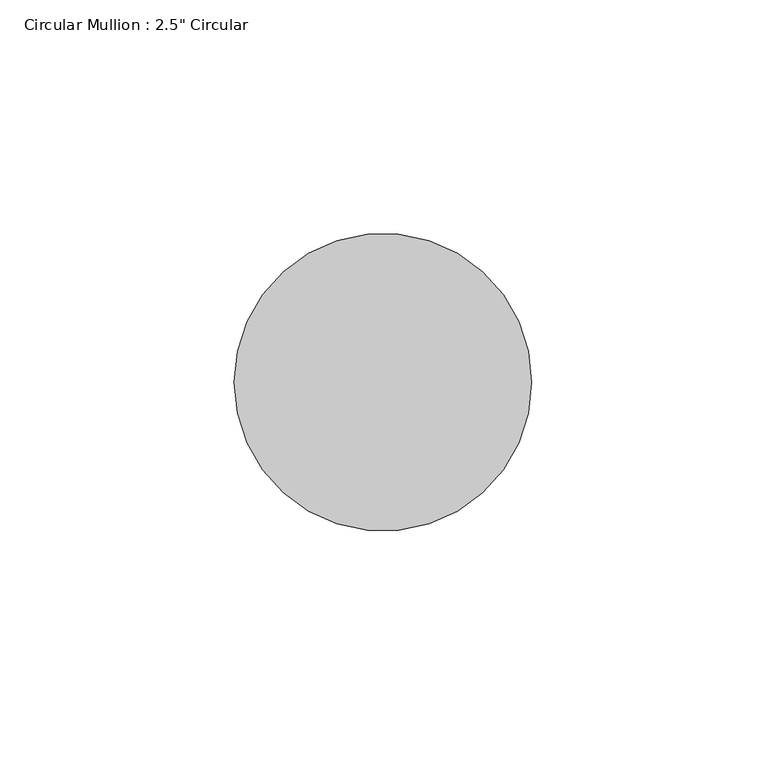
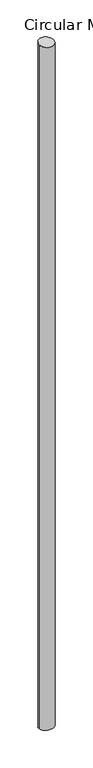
"""IFC4 building model written with IfcOpenShell, lengths in millimetres: member geometry."""

from ifc_helpers import new_model, si_unit, frame, origin, origin_with_axes, place, context, project, spatial, ellipse_curve, source, transform, mapped, element, save
from ifc_brep_helpers import plane_surface, cylinder_surface, advanced_brep


def member_155220cb(model_context):
    return source(origin(), model_context, "Body", "AdvancedBrep", [
        advanced_brep(
        [(-31.75, 0.0, 1.0276576), (31.75, 0.0, -1.0276576), (31.75, 0.0, -3073.8515463), (-31.75, 0.0, -3075.642019)],
        [
            (0, 1, ellipse_curve(frame((0.0, 0.0, 0.0), z_axis=(-0.03221797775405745, 0.09032919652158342, -0.9953906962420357), x_axis=(-0.33439534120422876, 0.9375406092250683, 0.0959028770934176)), 31.8970231, 31.75)),
            (1, 2),
            (2, 3, ellipse_curve(frame((0.0, 0.0, -3074.7467826), z_axis=(-0.028097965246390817, 0.0786252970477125, 0.9965081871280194), x_axis=(0.33534722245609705, -0.9383873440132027, 0.08349510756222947)), 31.8612535, 31.75)),
            (3, 0),
            (1, 0, ellipse_curve(frame((0.0, 0.0, 0.0), z_axis=(-0.03221797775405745, 0.09032919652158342, -0.9953906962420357), x_axis=(-0.33439534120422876, 0.9375406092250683, 0.0959028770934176)), 31.8970231, 31.75)),
            (3, 2, ellipse_curve(frame((0.0, 0.0, -3074.7467826), z_axis=(-0.028097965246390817, 0.0786252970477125, 0.9965081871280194), x_axis=(0.33534722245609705, -0.9383873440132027, 0.08349510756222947)), 31.8612535, 31.75)),
        ],
        [
            cylinder_surface(origin_with_axes(), 31.75),
            plane_surface(frame((287.0856426, 102.3956728, 0.0), z_axis=(0.03221797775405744, -0.0903291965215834, 0.9953906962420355), x_axis=(0.3343953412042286, -0.9375406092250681, -0.0959028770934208))),
            plane_surface(frame((287.022692, 102.5719956, -3074.7467826), z_axis=(0.028097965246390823, -0.07862529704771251, -0.9965081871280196), x_axis=(0.335347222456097, -0.9383873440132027, 0.08349510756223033))),
        ],
        [
            (0, [[1, 2, 3, 4]]),
            (0, [[5, -4, 6, -2]]),
            (1, [[-1, -5]]),
            (2, [[-6, -3]]),
        ],
    ),
    ])


if __name__ == "__main__":
    model = new_model("IFC4")
    model_context = context("Model", 3, world=origin())
    ifc_project = project(units=[si_unit("LENGTHUNIT", "METRE", prefix="MILLI")], contexts=[model_context])
    site = spatial("IfcSite", under=ifc_project)
    building = spatial("IfcBuilding", under=site)
    placement = place(None, origin())
    member_shape = member_155220cb(model_context)
    element("IfcMember", 1, ObjectType="Circular Mullion : 2.5\" Circular", at=placement, inside=building, context=model_context, shape_type="MappedRepresentation", body=[
        mapped(member_shape, transform((0.0, 0.0, 0.0), x_axis=(1.0, 0.0, 0.0), y_axis=(0.0, 1.0, 0.0), z_axis=(0.0, 0.0, 1.0))),
    ])
    save(model, "model.ifc")
